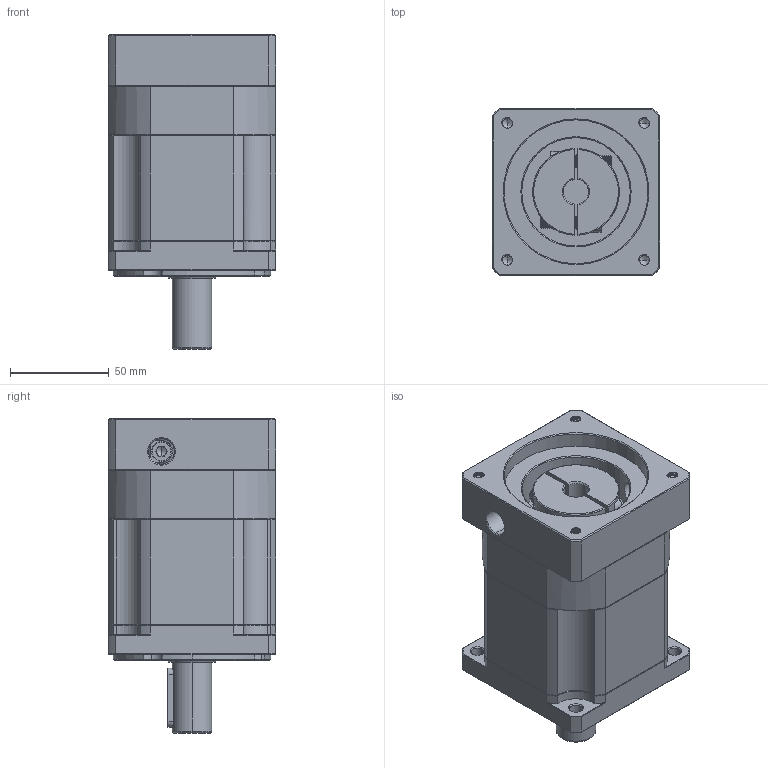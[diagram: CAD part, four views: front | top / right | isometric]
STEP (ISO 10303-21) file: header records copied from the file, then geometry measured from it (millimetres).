
FILE_DESCRIPTION (( 'STEP AP214' ), '1' );
FILE_NAME ('ZB90-D20-L2-12.7-73-69.5X69.5-M6.STEP', '2022-05-02T15:31:13', ( '' ), ( 'Microsoft' ), 'SwSTEP 2.0', 'SolidWorks 2016', '' );
FILE_SCHEMA (( 'AUTOMOTIVE_DESIGN' ));
Length unit declared in the file: millimetre
Products named in the file (1): ZB90-D20-L2-12.7-73-69.5X69.5-M6
Bounding box: 85 x 85 x 159.5 mm (x, y, z)
Volume: 728971.2 mm3; surface area: 92383.1 mm2
Topology: 4 solids, 5 shells, 1939 faces, 5064 edges, 3205 vertices
Faces by surface type: plane 882, cylinder 396, cone 335, bspline 299, torus 27
Entity records: 104625 total; most frequent: CARTESIAN_POINT 38370, ORIENTED_EDGE 10084, DIRECTION 8192, EDGE_CURVE 5042, VERTEX_POINT 3205, VECTOR 3102, LINE 3102, AXIS2_PLACEMENT_3D 2545
